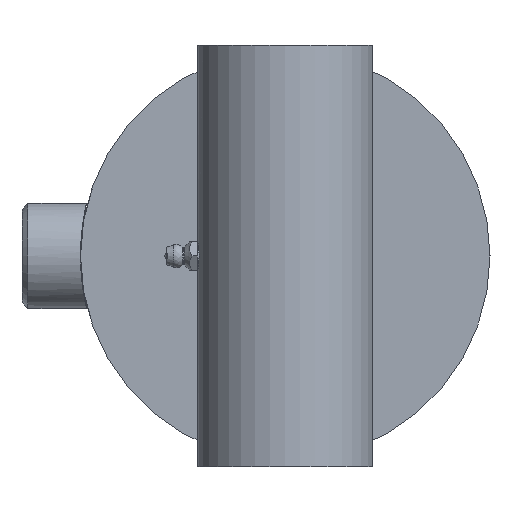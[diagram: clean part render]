
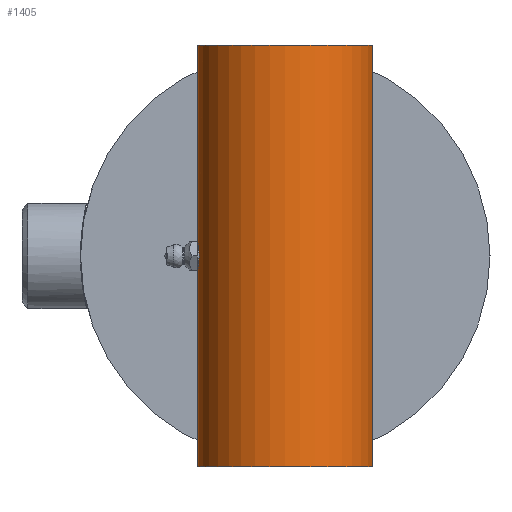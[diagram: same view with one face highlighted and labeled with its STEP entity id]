
A CAD part, left-side view. The second image highlights one B-rep face of the part: STEP entity #1405.
In plain terms, the highlighted cylindrical face has radius 23.812 mm (diameter 47.625 mm), a full revolution.
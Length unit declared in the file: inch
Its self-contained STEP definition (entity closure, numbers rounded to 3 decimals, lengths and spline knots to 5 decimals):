
#1240=CARTESIAN_POINT('',(0.,0.9375,-0.174));
#1241=VERTEX_POINT('',#1240);
#1242=CARTESIAN_POINT('',(0.,0.9375,0.174));
#1243=VERTEX_POINT('',#1242);
#1244=CARTESIAN_POINT('',(0.,0.9375,-0.174));
#1245=CARTESIAN_POINT('',(0.0219,0.9375,-0.174));
#1246=CARTESIAN_POINT('',(0.04523,0.93665,-0.16961));
#1247=CARTESIAN_POINT('',(0.08808,0.9336,-0.15184));
#1248=CARTESIAN_POINT('',(0.10762,0.93143,-0.13846));
#1249=CARTESIAN_POINT('',(0.13846,0.92735,-0.10762));
#1250=CARTESIAN_POINT('',(0.15184,0.92517,-0.08808));
#1251=CARTESIAN_POINT('',(0.16961,0.92207,-0.04523));
#1252=CARTESIAN_POINT('',(0.174,0.92121,-0.0219));
#1253=CARTESIAN_POINT('',(0.174,0.92121,0.0219));
#1254=CARTESIAN_POINT('',(0.16961,0.92207,0.04523));
#1255=CARTESIAN_POINT('',(0.15184,0.92517,0.08808));
#1256=CARTESIAN_POINT('',(0.13846,0.92735,0.10762));
#1257=CARTESIAN_POINT('',(0.10762,0.93143,0.13846));
#1258=CARTESIAN_POINT('',(0.08808,0.9336,0.15184));
#1259=CARTESIAN_POINT('',(0.04523,0.93665,0.16961));
#1260=CARTESIAN_POINT('',(0.0219,0.9375,0.174));
#1261=CARTESIAN_POINT('',(0.,0.9375,0.174));
#1262=B_SPLINE_CURVE_WITH_KNOTS('',3,(#1244,#1245,#1246,#1247,#1248,#1249,#1250,#1251,#1252,#1253,#1254,#1255,#1256,#1257,#1258,#1259,#1260,#1261),.UNSPECIFIED.,.F.,.U.,(4,2,2,2,2,2,2,2,4),(0.66759,0.83448,1.00138,1.16828,1.33518,1.50208,1.66898,1.83587,2.00277),.UNSPECIFIED.);
#1263=EDGE_CURVE('',#1241,#1243,#1262,.T.);
#1265=CARTESIAN_POINT('',(0.0,0.9375,0.174));
#1266=CARTESIAN_POINT('',(-0.0219,0.9375,0.174));
#1267=CARTESIAN_POINT('',(-0.04523,0.93665,0.16961));
#1268=CARTESIAN_POINT('',(-0.08808,0.9336,0.15184));
#1269=CARTESIAN_POINT('',(-0.10762,0.93143,0.13846));
#1270=CARTESIAN_POINT('',(-0.13846,0.92735,0.10762));
#1271=CARTESIAN_POINT('',(-0.15184,0.92517,0.08808));
#1272=CARTESIAN_POINT('',(-0.16961,0.92207,0.04523));
#1273=CARTESIAN_POINT('',(-0.174,0.92121,0.0219));
#1274=CARTESIAN_POINT('',(-0.174,0.92121,0.0));
#1275=CARTESIAN_POINT('',(-0.174,0.92121,-0.0219));
#1276=CARTESIAN_POINT('',(-0.16961,0.92207,-0.04523));
#1277=CARTESIAN_POINT('',(-0.15184,0.92517,-0.08808));
#1278=CARTESIAN_POINT('',(-0.13846,0.92735,-0.10762));
#1279=CARTESIAN_POINT('',(-0.10762,0.93143,-0.13846));
#1280=CARTESIAN_POINT('',(-0.08808,0.9336,-0.15184));
#1281=CARTESIAN_POINT('',(-0.04523,0.93665,-0.16961));
#1282=CARTESIAN_POINT('',(-0.0219,0.9375,-0.174));
#1283=CARTESIAN_POINT('',(0.0,0.9375,-0.174));
#1284=B_SPLINE_CURVE_WITH_KNOTS('',3,(#1265,#1266,#1267,#1268,#1269,#1270,#1271,#1272,#1273,#1274,#1275,#1276,#1277,#1278,#1279,#1280,#1281,#1282,#1283),.UNSPECIFIED.,.F.,.U.,(4,2,2,2,3,2,2,2,4),(2.00277,2.16966,2.33655,2.50345,2.67036,2.83726,3.00416,3.17105,3.33794),.UNSPECIFIED.);
#1285=EDGE_CURVE('',#1243,#1241,#1284,.T.);
#1367=CARTESIAN_POINT('',(0.9375,0.,-2.25));
#1368=VERTEX_POINT('',#1367);
#1369=CARTESIAN_POINT('',(0.0,0.0,-2.25));
#1370=DIRECTION('',(0.0,0.0,1.0));
#1371=DIRECTION('',(-1.0,0.0,0.0));
#1372=AXIS2_PLACEMENT_3D('',#1369,#1370,#1371);
#1373=CIRCLE('',#1372,0.9375);
#1374=EDGE_CURVE('',#1368,#1368,#1373,.T.);
#1382=CARTESIAN_POINT('',(0.0,0.0,0.0));
#1383=DIRECTION('',(0.0,0.0,1.0));
#1384=DIRECTION('',(-1.0,0.0,0.0));
#1385=AXIS2_PLACEMENT_3D('',#1382,#1383,#1384);
#1386=CYLINDRICAL_SURFACE('',#1385,0.9375);
#1387=ORIENTED_EDGE('',*,*,#1374,.T.);
#1388=EDGE_LOOP('',(#1387));
#1389=FACE_OUTER_BOUND('',#1388,.T.);
#1390=ORIENTED_EDGE('',*,*,#1263,.T.);
#1391=ORIENTED_EDGE('',*,*,#1285,.T.);
#1392=EDGE_LOOP('',(#1390,#1391));
#1393=FACE_BOUND('',#1392,.T.);
#1394=CARTESIAN_POINT('',(0.9375,0.,2.25));
#1395=VERTEX_POINT('',#1394);
#1396=CARTESIAN_POINT('',(0.0,0.0,2.25));
#1397=DIRECTION('',(0.0,0.0,-1.0));
#1398=DIRECTION('',(-1.0,0.0,0.0));
#1399=AXIS2_PLACEMENT_3D('',#1396,#1397,#1398);
#1400=CIRCLE('',#1399,0.9375);
#1401=EDGE_CURVE('',#1395,#1395,#1400,.T.);
#1402=ORIENTED_EDGE('',*,*,#1401,.T.);
#1403=EDGE_LOOP('',(#1402));
#1404=FACE_BOUND('',#1403,.T.);
#1405=ADVANCED_FACE('',(#1389,#1393,#1404),#1386,.T.);
